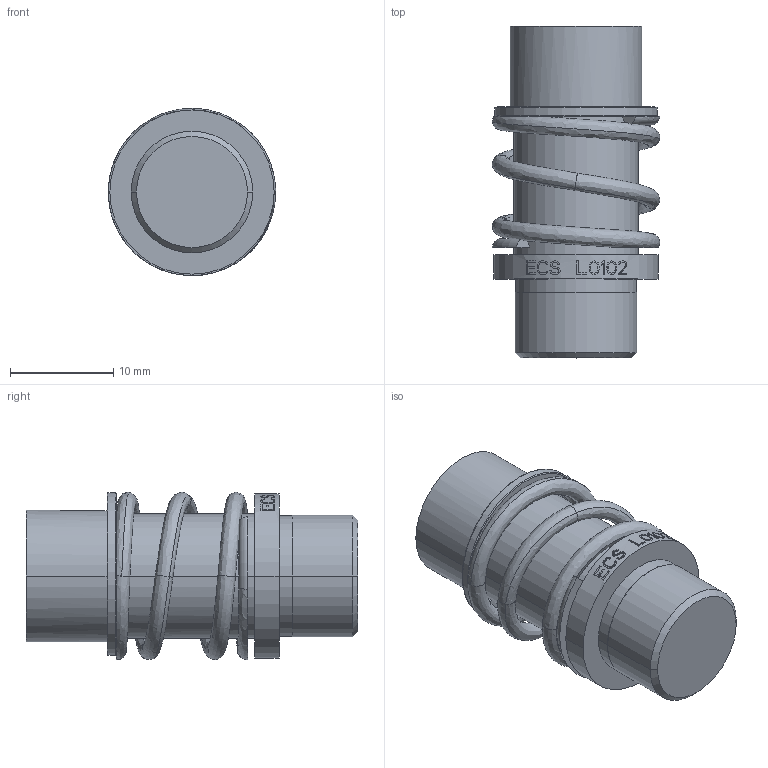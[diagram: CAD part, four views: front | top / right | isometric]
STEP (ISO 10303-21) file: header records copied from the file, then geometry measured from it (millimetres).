
FILE_DESCRIPTION((''),'2;1');
FILE_NAME('L0102_2','2019-12-06T17:32:10',('Anthony.Gnas'),('Carlisle Interconnect Technologies'),'CREO PARAMETRIC BY PTC INC, 2017260','CREO PARAMETRIC BY PTC INC, 2017260','');
FILE_SCHEMA(('AUTOMOTIVE_DESIGN { 1 0 10303 214 1 1 1 1 }'));
Length unit declared in the file: inch
Products named in the file (1): L0102_2
Bounding box: 16.18 x 32.08 x 16.17 mm (x, y, z)
Surface area: 3253.5 mm2 (no closed solid volume)
Topology: 0 solids, 1 shells, 382 faces, 1049 edges, 676 vertices
Faces by surface type: bspline 189, plane 109, cylinder 50, torus 18, cone 12, sphere 4
Entity records: 25705 total; most frequent: CARTESIAN_POINT 13425, ORIENTED_EDGE 2094, DIRECTION 1252, PRESENTATION_STYLE_ASSIGNMENT 1122, STYLED_ITEM 1050, CURVE_STYLE 1049, EDGE_CURVE 1049, VERTEX_POINT 676
